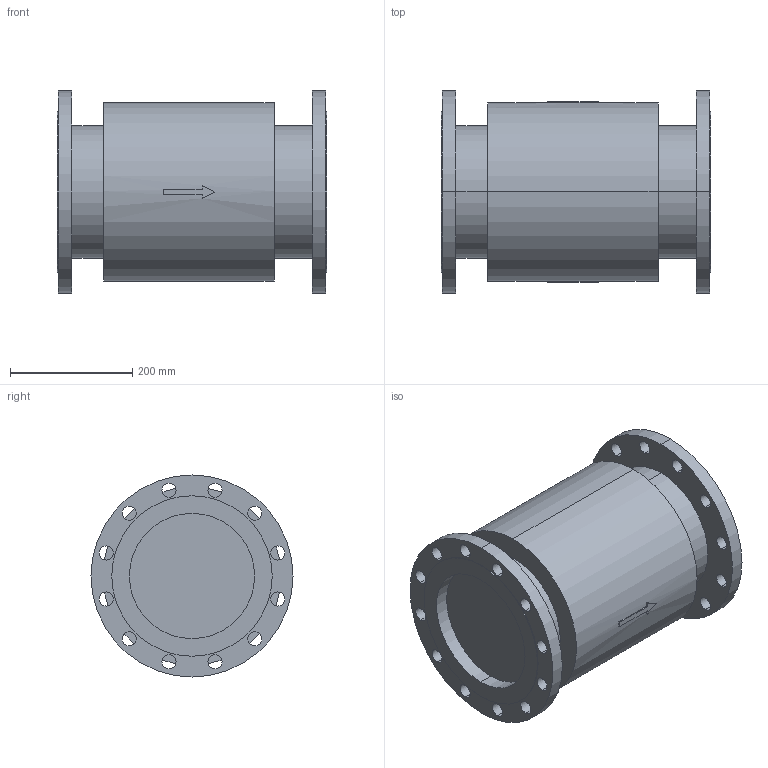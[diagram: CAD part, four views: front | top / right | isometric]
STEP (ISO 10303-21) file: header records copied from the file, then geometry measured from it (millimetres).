
FILE_DESCRIPTION( (''), '2;1');
FILE_NAME ('PC1027.10420.EB-1J　200A_19698.stp','2025-07-29T12:57:06',(''),(''),'spGate 20.6.3 (****-****-****-****)','','');
FILE_SCHEMA (('AUTOMOTIVE_DESIGN'));
Length unit declared in the file: millimetre
Bounding box: 440 x 330 x 330 mm (x, y, z)
Volume: 24968328.5 mm3; surface area: 758966.5 mm2
Topology: 1 solids, 1 shells, 92 faces, 242 edges, 162 vertices
Faces by surface type: cylinder 66, plane 26
Entity records: 4845 total; most frequent: CARTESIAN_POINT 570, DIRECTION 496, ORIENTED_EDGE 484, COLOUR_RGB 335, PRESENTATION_STYLE_ASSIGNMENT 335, STYLED_ITEM 335, EDGE_CURVE 242, DRAUGHTING_PRE_DEFINED_CURVE_FONT 242
